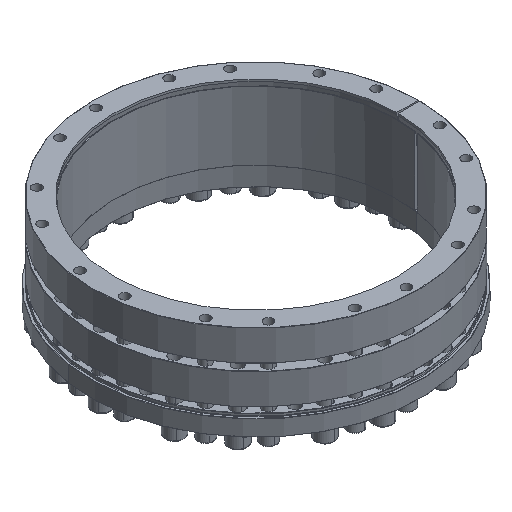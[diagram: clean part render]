
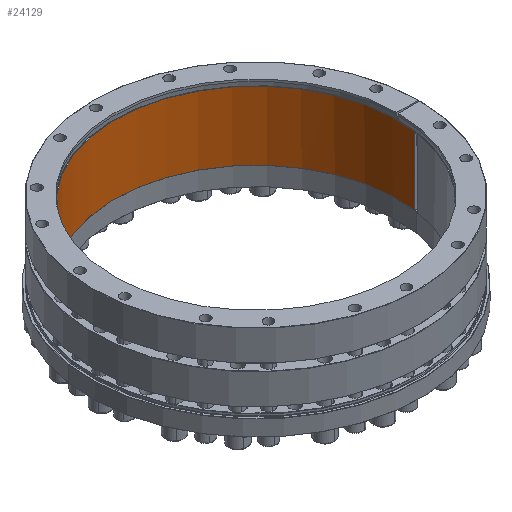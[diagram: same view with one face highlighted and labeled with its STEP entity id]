
A CAD part, isometric view. The second image highlights one B-rep face of the part: STEP entity #24129.
In plain terms, the highlighted cylindrical face has radius 270 mm (diameter 540 mm), a partial arc.
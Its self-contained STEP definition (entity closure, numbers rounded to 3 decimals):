
#552 = DIRECTION ( 'NONE',  ( 0., 0., -1. ) ) ;
#1185 = DIRECTION ( 'NONE',  ( -0.99, 0.143, 0. ) ) ;
#1537 = ORIENTED_EDGE ( 'NONE', *, *, #27849, .F. ) ;
#3669 = CARTESIAN_POINT ( 'NONE',  ( 267.206, -38.743, -142.004 ) ) ;
#6520 = CIRCLE ( 'NONE', #21163, 270. ) ;
#7465 = DIRECTION ( 'NONE',  ( 0.99, -0.143, 0. ) ) ;
#7564 = CARTESIAN_POINT ( 'NONE',  ( 0., 0., -141.504 ) ) ;
#8783 = EDGE_CURVE ( 'NONE', #23066, #10801, #53371, .T. ) ;
#10080 = EDGE_LOOP ( 'NONE', ( #1537, #26137, #14452, #45483, #46092, #31380, #11253, #33892 ) ) ;
#10801 = VERTEX_POINT ( 'NONE', #34359 ) ;
#11006 = DIRECTION ( 'NONE',  ( 0., 0., 1. ) ) ;
#11253 = ORIENTED_EDGE ( 'NONE', *, *, #8783, .T. ) ;
#11752 = DIRECTION ( 'NONE',  ( -0.99, 0.143, 0. ) ) ;
#12122 = CARTESIAN_POINT ( 'NONE',  ( 267.553, -36.267, -11.004 ) ) ;
#14452 = ORIENTED_EDGE ( 'NONE', *, *, #26221, .T. ) ;
#14809 = DIRECTION ( 'NONE',  ( 0., 0., 1. ) ) ;
#15733 = CIRCLE ( 'NONE', #44102, 270. ) ;
#16555 = EDGE_CURVE ( 'NONE', #28373, #43790, #6520, .T. ) ;
#16786 = VECTOR ( 'NONE', #24597, 1000. ) ;
#16922 = DIRECTION ( 'NONE',  ( 0., 0., 1. ) ) ;
#17605 = VECTOR ( 'NONE', #11006, 1000. ) ;
#18769 = CARTESIAN_POINT ( 'NONE',  ( -267.206, 38.743, -11.004 ) ) ;
#20859 = AXIS2_PLACEMENT_3D ( 'NONE', #7564, #36575, #11752 ) ;
#21028 = CARTESIAN_POINT ( 'NONE',  ( -267.206, 38.743, -141.504 ) ) ;
#21163 = AXIS2_PLACEMENT_3D ( 'NONE', #50739, #25950, #1185 ) ;
#21804 = FACE_OUTER_BOUND ( 'NONE', #10080, .T. ) ;
#22012 = CARTESIAN_POINT ( 'NONE',  ( 0., 0., -11.004 ) ) ;
#22322 = VERTEX_POINT ( 'NONE', #3669 ) ;
#22484 = VERTEX_POINT ( 'NONE', #21028 ) ;
#23066 = VERTEX_POINT ( 'NONE', #37475 ) ;
#23471 = LINE ( 'NONE', #18769, #44212 ) ;
#23961 = LINE ( 'NONE', #12122, #16786 ) ;
#24129 = ADVANCED_FACE ( 'NONE', ( #21804 ), #27622, .F. ) ;
#24597 = DIRECTION ( 'NONE',  ( 0., 0., 1. ) ) ;
#25062 = CARTESIAN_POINT ( 'NONE',  ( 267.553, -36.267, -141.504 ) ) ;
#25574 = VERTEX_POINT ( 'NONE', #38245 ) ;
#25950 = DIRECTION ( 'NONE',  ( 0., 0., 1. ) ) ;
#26137 = ORIENTED_EDGE ( 'NONE', *, *, #51883, .F. ) ;
#26181 = DIRECTION ( 'NONE',  ( 0.99, -0.143, 0. ) ) ;
#26221 = EDGE_CURVE ( 'NONE', #22322, #28373, #49340, .T. ) ;
#27042 = CARTESIAN_POINT ( 'NONE',  ( 267.553, -36.267, -11.004 ) ) ;
#27622 = CYLINDRICAL_SURFACE ( 'NONE', #50213, 270. ) ;
#27849 = EDGE_CURVE ( 'NONE', #25574, #22484, #23471, .T. ) ;
#27942 = DIRECTION ( 'NONE',  ( 0., 0., 1. ) ) ;
#28373 = VERTEX_POINT ( 'NONE', #47353 ) ;
#31380 = ORIENTED_EDGE ( 'NONE', *, *, #42533, .T. ) ;
#31842 = CIRCLE ( 'NONE', #38828, 270. ) ;
#32858 = EDGE_CURVE ( 'NONE', #10801, #22484, #35928, .T. ) ;
#33892 = ORIENTED_EDGE ( 'NONE', *, *, #32858, .T. ) ;
#34359 = CARTESIAN_POINT ( 'NONE',  ( -266.836, 41.215, -141.504 ) ) ;
#35837 = CARTESIAN_POINT ( 'NONE',  ( 267.206, -38.743, -11.004 ) ) ;
#35928 = CIRCLE ( 'NONE', #20859, 270. ) ;
#36293 = CARTESIAN_POINT ( 'NONE',  ( 0., 0., -11.004 ) ) ;
#36575 = DIRECTION ( 'NONE',  ( 0., 0., 1. ) ) ;
#37475 = CARTESIAN_POINT ( 'NONE',  ( -266.836, 41.215, -11.004 ) ) ;
#38245 = CARTESIAN_POINT ( 'NONE',  ( -267.206, 38.743, -142.004 ) ) ;
#38828 = AXIS2_PLACEMENT_3D ( 'NONE', #41781, #16922, #45908 ) ;
#40531 = VERTEX_POINT ( 'NONE', #27042 ) ;
#41781 = CARTESIAN_POINT ( 'NONE',  ( 0., 0., -142.004 ) ) ;
#41818 = CARTESIAN_POINT ( 'NONE',  ( -266.836, 41.215, -11.004 ) ) ;
#42376 = VECTOR ( 'NONE', #552, 1000. ) ;
#42533 = EDGE_CURVE ( 'NONE', #40531, #23066, #15733, .T. ) ;
#43790 = VERTEX_POINT ( 'NONE', #25062 ) ;
#44102 = AXIS2_PLACEMENT_3D ( 'NONE', #22012, #50968, #26181 ) ;
#44212 = VECTOR ( 'NONE', #14809, 1000. ) ;
#44820 = EDGE_CURVE ( 'NONE', #43790, #40531, #23961, .T. ) ;
#45483 = ORIENTED_EDGE ( 'NONE', *, *, #16555, .T. ) ;
#45908 = DIRECTION ( 'NONE',  ( 0.99, -0.143, 0. ) ) ;
#46092 = ORIENTED_EDGE ( 'NONE', *, *, #44820, .T. ) ;
#47353 = CARTESIAN_POINT ( 'NONE',  ( 267.206, -38.743, -141.504 ) ) ;
#49340 = LINE ( 'NONE', #35837, #17605 ) ;
#50213 = AXIS2_PLACEMENT_3D ( 'NONE', #36293, #27942, #7465 ) ;
#50739 = CARTESIAN_POINT ( 'NONE',  ( 0., 0., -141.504 ) ) ;
#50968 = DIRECTION ( 'NONE',  ( 0., 0., 1. ) ) ;
#51883 = EDGE_CURVE ( 'NONE', #22322, #25574, #31842, .T. ) ;
#53371 = LINE ( 'NONE', #41818, #42376 ) ;
